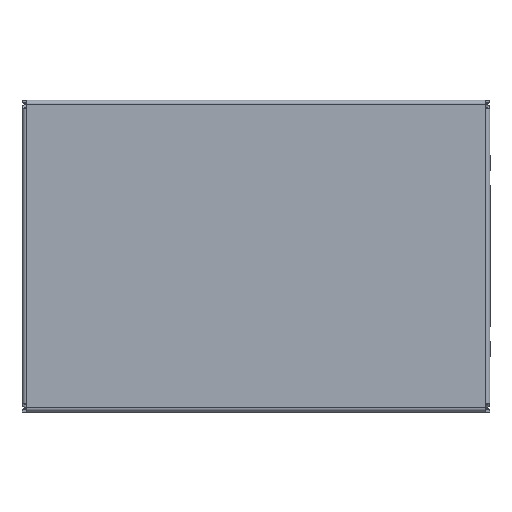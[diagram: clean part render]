
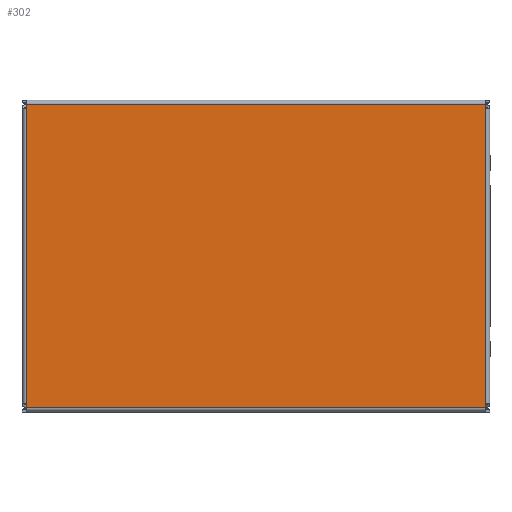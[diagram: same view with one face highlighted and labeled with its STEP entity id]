
A CAD part, front view. The second image highlights one B-rep face of the part: STEP entity #302.
In plain terms, the highlighted planar face has unit normal (0, -1, 0) as drawn and (0, 0, -1) by its records, which use the part's own axes.
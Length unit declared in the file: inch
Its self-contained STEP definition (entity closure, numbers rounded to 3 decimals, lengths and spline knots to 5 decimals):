
#231=CARTESIAN_POINT('',(-2.0,-3.0,0.0));
#232=DIRECTION('',(0.0,0.0,1.0));
#233=DIRECTION('',(1.0,0.0,0.0));
#234=AXIS2_PLACEMENT_3D('',#231,#232,#233);
#235=PLANE('',#234);
#236=CARTESIAN_POINT('',(1.946,2.946,0.0));
#237=VERTEX_POINT('',#236);
#238=CARTESIAN_POINT('',(1.946,-2.946,0.0));
#239=VERTEX_POINT('',#238);
#240=CARTESIAN_POINT('',(1.946,2.946,0.0));
#241=DIRECTION('',(0.0,-1.0,0.0));
#242=VECTOR('',#241,5.892);
#243=LINE('',#240,#242);
#244=EDGE_CURVE('',#237,#239,#243,.T.);
#245=ORIENTED_EDGE('',*,*,#244,.T.);
#246=CARTESIAN_POINT('',(1.892,-2.946,0.0));
#247=VERTEX_POINT('',#246);
#248=CARTESIAN_POINT('',(1.946,-2.946,0.0));
#249=DIRECTION('',(-1.0,0.0,0.0));
#250=VECTOR('',#249,0.054);
#251=LINE('',#248,#250);
#252=EDGE_CURVE('',#239,#247,#251,.T.);
#253=ORIENTED_EDGE('',*,*,#252,.T.);
#254=CARTESIAN_POINT('',(-1.892,-2.946,0.0));
#255=VERTEX_POINT('',#254);
#256=CARTESIAN_POINT('',(1.892,-2.946,0.0));
#257=DIRECTION('',(-1.0,0.0,0.0));
#258=VECTOR('',#257,3.784);
#259=LINE('',#256,#258);
#260=EDGE_CURVE('',#247,#255,#259,.T.);
#261=ORIENTED_EDGE('',*,*,#260,.T.);
#262=CARTESIAN_POINT('',(-1.946,-2.946,0.0));
#263=VERTEX_POINT('',#262);
#264=CARTESIAN_POINT('',(-1.892,-2.946,0.0));
#265=DIRECTION('',(-1.0,0.0,0.0));
#266=VECTOR('',#265,0.054);
#267=LINE('',#264,#266);
#268=EDGE_CURVE('',#255,#263,#267,.T.);
#269=ORIENTED_EDGE('',*,*,#268,.T.);
#270=CARTESIAN_POINT('',(-1.946,2.946,0.0));
#271=VERTEX_POINT('',#270);
#272=CARTESIAN_POINT('',(-1.946,-2.946,0.0));
#273=DIRECTION('',(0.0,1.0,0.0));
#274=VECTOR('',#273,5.892);
#275=LINE('',#272,#274);
#276=EDGE_CURVE('',#263,#271,#275,.T.);
#277=ORIENTED_EDGE('',*,*,#276,.T.);
#278=CARTESIAN_POINT('',(-1.892,2.946,0.0));
#279=VERTEX_POINT('',#278);
#280=CARTESIAN_POINT('',(-1.946,2.946,0.0));
#281=DIRECTION('',(1.0,0.0,0.0));
#282=VECTOR('',#281,0.054);
#283=LINE('',#280,#282);
#284=EDGE_CURVE('',#271,#279,#283,.T.);
#285=ORIENTED_EDGE('',*,*,#284,.T.);
#286=CARTESIAN_POINT('',(1.892,2.946,0.0));
#287=VERTEX_POINT('',#286);
#288=CARTESIAN_POINT('',(-1.892,2.946,0.0));
#289=DIRECTION('',(1.0,0.0,0.0));
#290=VECTOR('',#289,3.784);
#291=LINE('',#288,#290);
#292=EDGE_CURVE('',#279,#287,#291,.T.);
#293=ORIENTED_EDGE('',*,*,#292,.T.);
#294=CARTESIAN_POINT('',(1.892,2.946,0.0));
#295=DIRECTION('',(1.0,0.0,0.0));
#296=VECTOR('',#295,0.054);
#297=LINE('',#294,#296);
#298=EDGE_CURVE('',#287,#237,#297,.T.);
#299=ORIENTED_EDGE('',*,*,#298,.T.);
#300=EDGE_LOOP('',(#245,#253,#261,#269,#277,#285,#293,#299));
#301=FACE_OUTER_BOUND('',#300,.T.);
#302=ADVANCED_FACE('',(#301),#235,.F.);
